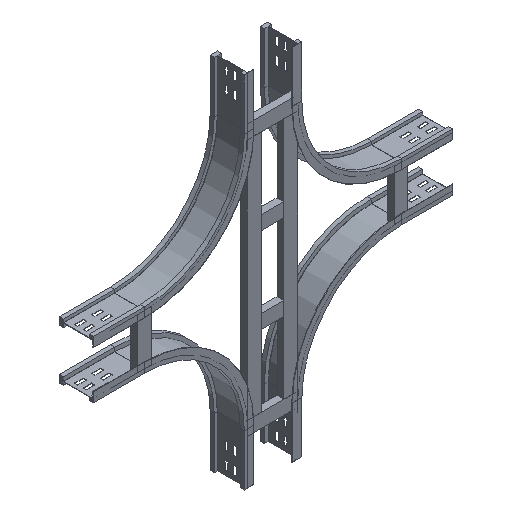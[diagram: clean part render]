
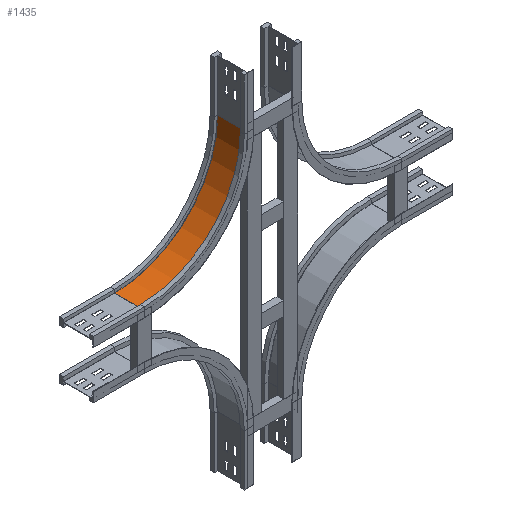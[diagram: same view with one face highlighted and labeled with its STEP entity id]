
A CAD part, isometric view. The second image highlights one B-rep face of the part: STEP entity #1435.
In plain terms, the highlighted cylindrical face has radius 300 mm (diameter 600 mm), a partial arc.
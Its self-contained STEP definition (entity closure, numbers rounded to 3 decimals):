
#93 = EDGE_CURVE ( 'NONE', #1301, #2678, #1331, .T. ) ;
#148 = ORIENTED_EDGE ( 'NONE', *, *, #2689, .T. ) ;
#261 = DIRECTION ( 'NONE',  ( 0., 1., 0. ) ) ;
#330 = DIRECTION ( 'NONE',  ( 0., 0., -1. ) ) ;
#488 = CARTESIAN_POINT ( 'NONE',  ( 291., 12., -450. ) ) ;
#548 = DIRECTION ( 'NONE',  ( 0., -1., 0. ) ) ;
#560 = DIRECTION ( 'NONE',  ( 0., -1., 0. ) ) ;
#675 = VERTEX_POINT ( 'NONE', #1311 ) ;
#720 = DIRECTION ( 'NONE',  ( 0., -1., 0. ) ) ;
#741 = CARTESIAN_POINT ( 'NONE',  ( 291., 0., -150. ) ) ;
#789 = CIRCLE ( 'NONE', #2520, 300. ) ;
#849 = ORIENTED_EDGE ( 'NONE', *, *, #2416, .F. ) ;
#1113 = CARTESIAN_POINT ( 'NONE',  ( 291., 88., -450. ) ) ;
#1174 = EDGE_CURVE ( 'NONE', #675, #2678, #789, .T. ) ;
#1279 = CARTESIAN_POINT ( 'NONE',  ( 291., 12., -150. ) ) ;
#1301 = VERTEX_POINT ( 'NONE', #1559 ) ;
#1311 = CARTESIAN_POINT ( 'NONE',  ( -9., 88., -150. ) ) ;
#1325 = CARTESIAN_POINT ( 'NONE',  ( -9., 12., -150. ) ) ;
#1331 = LINE ( 'NONE', #488, #2116 ) ;
#1387 = EDGE_LOOP ( 'NONE', ( #2358, #849, #148, #1694 ) ) ;
#1435 = ADVANCED_FACE ( 'NONE', ( #1783 ), #2672, .F. ) ;
#1559 = CARTESIAN_POINT ( 'NONE',  ( 291., 12., -450. ) ) ;
#1572 = LINE ( 'NONE', #2788, #1967 ) ;
#1666 = AXIS2_PLACEMENT_3D ( 'NONE', #741, #560, #330 ) ;
#1694 = ORIENTED_EDGE ( 'NONE', *, *, #93, .T. ) ;
#1783 = FACE_OUTER_BOUND ( 'NONE', #1387, .T. ) ;
#1868 = CIRCLE ( 'NONE', #1914, 300. ) ;
#1889 = DIRECTION ( 'NONE',  ( 0., 1., 0. ) ) ;
#1914 = AXIS2_PLACEMENT_3D ( 'NONE', #1279, #720, #2266 ) ;
#1963 = VERTEX_POINT ( 'NONE', #1325 ) ;
#1967 = VECTOR ( 'NONE', #1889, 1000. ) ;
#2116 = VECTOR ( 'NONE', #261, 1000. ) ;
#2266 = DIRECTION ( 'NONE',  ( -1., 0., 0. ) ) ;
#2297 = DIRECTION ( 'NONE',  ( -1., 0., 0. ) ) ;
#2358 = ORIENTED_EDGE ( 'NONE', *, *, #1174, .F. ) ;
#2416 = EDGE_CURVE ( 'NONE', #1963, #675, #1572, .T. ) ;
#2500 = CARTESIAN_POINT ( 'NONE',  ( 291., 88., -150. ) ) ;
#2520 = AXIS2_PLACEMENT_3D ( 'NONE', #2500, #548, #2297 ) ;
#2672 = CYLINDRICAL_SURFACE ( 'NONE', #1666, 300. ) ;
#2678 = VERTEX_POINT ( 'NONE', #1113 ) ;
#2689 = EDGE_CURVE ( 'NONE', #1963, #1301, #1868, .T. ) ;
#2788 = CARTESIAN_POINT ( 'NONE',  ( -9., 12., -150. ) ) ;
